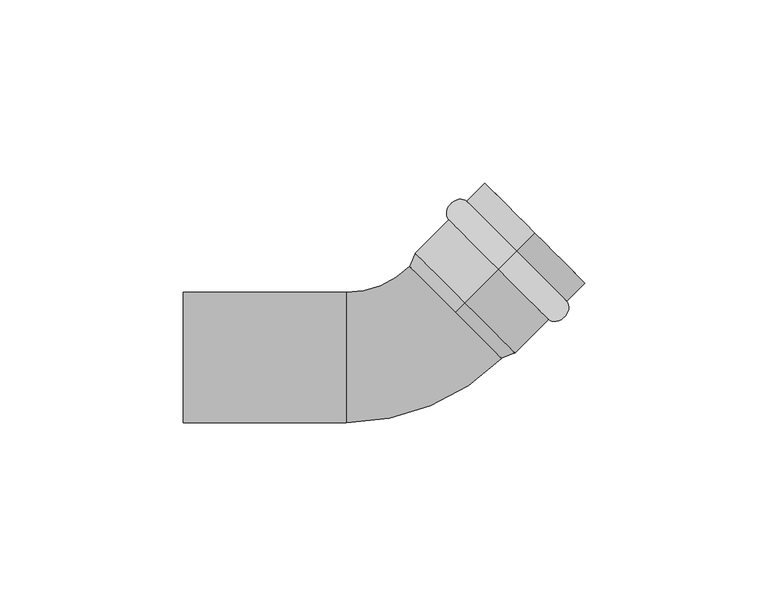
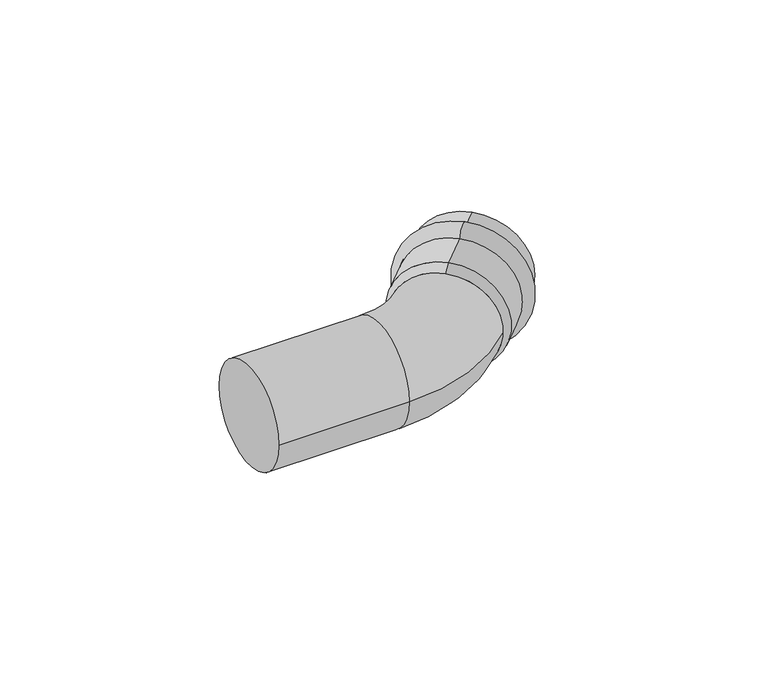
"""IFC4 building model written with IfcOpenShell, lengths in millimetres: pipe fitting geometry, РЕХАУ_Пресс Отвод-вставка : 35 x 45°."""

from ifc_helpers import new_model, si_unit, point, frame, origin, place, context, project, spatial, polyline, circle_curve, ellipse_curve, trimmed, source, transform, mapped, element, save
from ifc_brep_helpers import plane_surface, cylinder_surface, revolved_surface, advanced_brep


def pipe_fitting_95f75b3f(model_context):
    return source(origin(), model_context, "Body", "AdvancedBrep", [
        advanced_brep(
        [(90.991378, 28.991378, 19.25), (90.991378, 28.991378, -19.25), (86.0416306, 24.0416306, -19.25), (86.0416306, 24.0416306, 19.25)],
        [
            (0, 1, circle_curve(frame((90.991378, 28.991378, 0.0), z_axis=(0.7071067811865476, 0.7071067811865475, 0.0), x_axis=(0.0, 0.0, -1.0)), 19.25)),
            (1, 2),
            (2, 3, circle_curve(frame((86.0416306, 24.0416306, 0.0), z_axis=(-0.7071067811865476, -0.7071067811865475, 0.0), x_axis=(0.0, 0.0, -1.0)), 19.25)),
            (3, 0),
            (1, 0, circle_curve(frame((90.991378, 28.991378, 0.0), z_axis=(0.7071067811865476, 0.7071067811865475, 0.0), x_axis=(0.0, 0.0, -1.0)), 19.25)),
            (3, 2, circle_curve(frame((86.0416306, 24.0416306, 0.0), z_axis=(-0.7071067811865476, -0.7071067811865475, 0.0), x_axis=(0.0, 0.0, -1.0)), 19.25)),
            (2, 1, ellipse_curve(frame((88.5165043, 26.5165043, -19.25), z_axis=(0.7071067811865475, -0.7071067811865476, 0.0), x_axis=(0.7071067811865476, 0.7071067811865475, 0.0)), 3.5, 2.75)),
            (0, 3, ellipse_curve(frame((88.5165043, 26.5165043, 19.25), z_axis=(0.7071067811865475, -0.7071067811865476, 0.0), x_axis=(0.7071067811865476, 0.7071067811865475, 0.0)), 3.5, 2.75)),
        ],
        [
            revolved_surface(polyline([(86.0416306, 24.0416306, -19.25), (90.991378, 28.991377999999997, -19.25)]), (74.7279221, 12.7279221, 0.0), (-0.7071067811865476, -0.7071067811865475, 0.0)),
            revolved_surface(trimmed(ellipse_curve(frame((88.5165043, 26.5165043, -19.25), z_axis=(-0.7071067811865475, 0.7071067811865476, 0.0), x_axis=(0.7071067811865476, 0.7071067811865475, 0.0)), 3.5, 2.75), [point((90.991378, 28.991378, -19.25))], [point((86.0416306, 24.0416306, -19.25))], True, "CARTESIAN"), (74.7279221, 12.7279221, 0.0), (-0.7071067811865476, -0.7071067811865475, 0.0)),
        ],
        [
            (0, [[1, 2, 3, 4]]),
            (0, [[5, -4, 6, -2]]),
            (1, [[-3, 7, -1, 8]]),
            (1, [[-6, -8, -5, -7]]),
        ],
    ),
        advanced_brep(
        [(74.3504836, 12.3504836, 17.75), (74.3504836, 12.3504836, -17.75), (76.8492424, 14.8492424, -19.25), (76.8492424, 14.8492424, 19.25), (95.9411255, 33.9411255, 17.75), (95.9411255, 33.9411255, -17.75), (95.9411255, 33.9411255, 19.25), (95.9411255, 33.9411255, -19.25)],
        [
            (0, 1, circle_curve(frame((74.3504836, 12.3504836, 0.0), z_axis=(0.7071067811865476, 0.7071067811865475, 0.0), x_axis=(0.0, 0.0, -1.0)), 17.75)),
            (1, 2),
            (2, 3, circle_curve(frame((76.8492424, 14.8492424, 0.0), z_axis=(-0.7071067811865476, -0.7071067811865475, 0.0), x_axis=(0.0, 0.0, -1.0)), 19.25)),
            (3, 0),
            (1, 0, circle_curve(frame((74.3504836, 12.3504836, 0.0), z_axis=(0.7071067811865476, 0.7071067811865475, 0.0), x_axis=(0.0, 0.0, -1.0)), 17.75)),
            (3, 2, circle_curve(frame((76.8492424, 14.8492424, 0.0), z_axis=(-0.7071067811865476, -0.7071067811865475, 0.0), x_axis=(0.0, 0.0, -1.0)), 19.25)),
            (4, 5, circle_curve(frame((95.9411255, 33.9411255, 0.0), z_axis=(0.7071067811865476, 0.7071067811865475, 0.0), x_axis=(0.0, 0.0, -1.0)), 17.75)),
            (5, 1),
            (0, 4),
            (5, 4, circle_curve(frame((95.9411255, 33.9411255, 0.0), z_axis=(0.7071067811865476, 0.7071067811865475, 0.0), x_axis=(0.0, 0.0, -1.0)), 17.75)),
            (6, 7, circle_curve(frame((95.9411255, 33.9411255, 0.0), z_axis=(0.7071067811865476, 0.7071067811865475, 0.0), x_axis=(0.0, 0.0, -1.0)), 19.25)),
            (7, 5),
            (4, 6),
            (7, 6, circle_curve(frame((95.9411255, 33.9411255, 0.0), z_axis=(0.7071067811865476, 0.7071067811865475, 0.0), x_axis=(0.0, 0.0, -1.0)), 19.25)),
            (2, 7),
            (6, 3),
        ],
        [
            revolved_surface(polyline([(76.8492424, 14.8492424, -19.25), (74.3504836, 12.3504836, -17.75)]), (74.7279221, 12.7279221, 0.0), (-0.7071067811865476, -0.7071067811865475, 0.0)),
            revolved_surface(polyline([(74.3504836, 12.350483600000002, -17.75), (95.9411255, 33.9411255, -17.75)]), (74.7279221, 12.7279221, 0.0), (-0.7071067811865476, -0.7071067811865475, 0.0)),
            plane_surface(frame((95.9411255, 33.9411255, 0.0), z_axis=(0.7071067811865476, 0.7071067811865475, 0.0), x_axis=(0.0, 0.0, -1.0))),
            cylinder_surface(frame((74.7279221, 12.7279221, 0.0), z_axis=(-0.7071067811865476, -0.7071067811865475, 0.0), x_axis=(0.0, 0.0, -1.0)), 19.25),
        ],
        [
            (0, [[1, 2, 3, 4]]),
            (0, [[5, -4, 6, -2]]),
            (1, [[7, 8, -1, 9]]),
            (1, [[10, -9, -5, -8]]),
            (2, [[11, 12, -7, 13]]),
            (2, [[14, -13, -10, -12]]),
            (3, [[-3, 15, -11, 16]]),
            (3, [[-6, -16, -14, -15]]),
        ],
    ),
        advanced_brep(
        [(0.0, -17.75, 0.0), (0.0, 17.75, 0.0), (44.5337785, -17.75, 0.0), (44.5337785, 17.75, 0.0), (61.7993383, 24.901629, 0.0), (86.901629, -0.2006617, 0.0), (89.4003878, 2.298097, 0.0), (64.298097, 27.4003878, 0.0)],
        [
            (0, 1, circle_curve(frame((0.0, 0.0, 0.0), z_axis=(-1.0, 0.0, 0.0), x_axis=(0.0, 1.0, 0.0)), 17.75)),
            (1, 0, circle_curve(frame((0.0, 0.0, 0.0), z_axis=(-1.0, 0.0, 0.0), x_axis=(0.0, 1.0, 0.0)), 17.75)),
            (0, 2),
            (2, 3, circle_curve(frame((44.5337785, 0.0, 0.0), z_axis=(-1.0, 0.0, 0.0), x_axis=(0.0, 1.0, 0.0)), 17.75)),
            (3, 1),
            (3, 2, circle_curve(frame((44.5337785, 0.0, 0.0), z_axis=(-1.0, 0.0, 0.0), x_axis=(0.0, 1.0, 0.0)), 17.75)),
            (4, 3, circle_curve(frame((44.5337785, 42.1671887, 0.0), z_axis=(0.0, 0.0, -1.0), x_axis=(0.0, -1.0, 0.0)), 24.4171887)),
            (2, 5, circle_curve(frame((44.5337785, 42.1671887, 0.0), z_axis=(0.0, 0.0, 1.0), x_axis=(0.0, -1.0, 0.0)), 59.9171887)),
            (5, 4, circle_curve(frame((74.3504836, 12.3504836, 0.0), z_axis=(-0.7071067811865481, -0.7071067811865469, 0.0), x_axis=(-0.7071067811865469, 0.7071067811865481, 0.0)), 17.75)),
            (4, 5, circle_curve(frame((74.3504836, 12.3504836, 0.0), z_axis=(-0.707106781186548, -0.707106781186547, 0.0), x_axis=(-0.707106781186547, 0.707106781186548, 0.0)), 17.75)),
            (6, 7, circle_curve(frame((76.8492424, 14.8492424, 0.0), z_axis=(0.7071067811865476, 0.7071067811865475, 0.0), x_axis=(-0.7071067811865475, 0.7071067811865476, 0.0)), 17.75)),
            (7, 6, circle_curve(frame((76.8492424, 14.8492424, 0.0), z_axis=(0.7071067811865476, 0.7071067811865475, 0.0), x_axis=(-0.7071067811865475, 0.7071067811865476, 0.0)), 17.75)),
            (5, 6),
            (7, 4),
        ],
        [
            plane_surface(frame((0.0, 0.0, 0.0), z_axis=(-1.0, 0.0, 0.0), x_axis=(0.0, 0.0, 1.0))),
            cylinder_surface(frame((0.0, 0.0, 0.0), z_axis=(-1.0, 0.0, 0.0), x_axis=(0.0, 1.0, 0.0)), 17.75),
            revolved_surface(trimmed(ellipse_curve(frame((44.5337785, 0.0, 0.0), z_axis=(-1.0, 0.0, 0.0), x_axis=(0.0, 1.0, 0.0)), 17.75, 17.75), [point((44.5337785, -17.75, 0.0))], [point((44.5337785, 17.75, 0.0))], True, "CARTESIAN"), (44.5337785, 42.1671887, 0.0), (0.0, 0.0, 1.0)),
            revolved_surface(trimmed(ellipse_curve(frame((44.5337785, 0.0, 0.0), z_axis=(-1.0, 0.0, 0.0), x_axis=(0.0, 1.0, 0.0)), 17.75, 17.75), [point((44.5337785, 17.75, 0.0))], [point((44.5337785, -17.75, 0.0))], True, "CARTESIAN"), (44.5337785, 42.1671887, 0.0), (0.0, 0.0, 1.0)),
            plane_surface(frame((76.8492424, 14.8492424, 0.0), z_axis=(0.7071067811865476, 0.7071067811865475, 0.0), x_axis=(0.0, 0.0, 1.0))),
            cylinder_surface(frame((74.3504836, 12.3504836, 0.0), z_axis=(-0.7071067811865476, -0.7071067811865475, 0.0), x_axis=(-0.7071067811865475, 0.7071067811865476, 0.0)), 17.75),
        ],
        [
            (0, [[1, 2]]),
            (1, [[-1, 3, 4, 5]]),
            (1, [[-2, -5, 6, -3]]),
            (2, [[7, -4, 8, 9]]),
            (3, [[-8, -6, -7, 10]]),
            (4, [[11, 12]]),
            (5, [[-9, 13, -12, 14]]),
            (5, [[-10, -14, -11, -13]]),
        ],
    ),
    ])


if __name__ == "__main__":
    model = new_model("IFC4")
    model_context = context("Model", 3, world=origin())
    ifc_project = project(units=[si_unit("LENGTHUNIT", "METRE", prefix="MILLI")], contexts=[model_context])
    site = spatial("IfcSite", under=ifc_project)
    building = spatial("IfcBuilding", under=site)
    placement = place(None, origin())
    pipe_fitting_shape = pipe_fitting_95f75b3f(model_context)
    element("IfcPipeFitting", 1, ObjectType="РЕХАУ_Пресс Отвод-вставка : 35 x 45°", at=placement, inside=building, context=model_context, shape_type="MappedRepresentation", body=[
        mapped(pipe_fitting_shape, transform((0.0, 0.0, 0.0), x_axis=(1.0, 0.0, 0.0), y_axis=(0.0, 1.0, 0.0), z_axis=(0.0, 0.0, 1.0))),
    ])
    save(model, "model.ifc")
